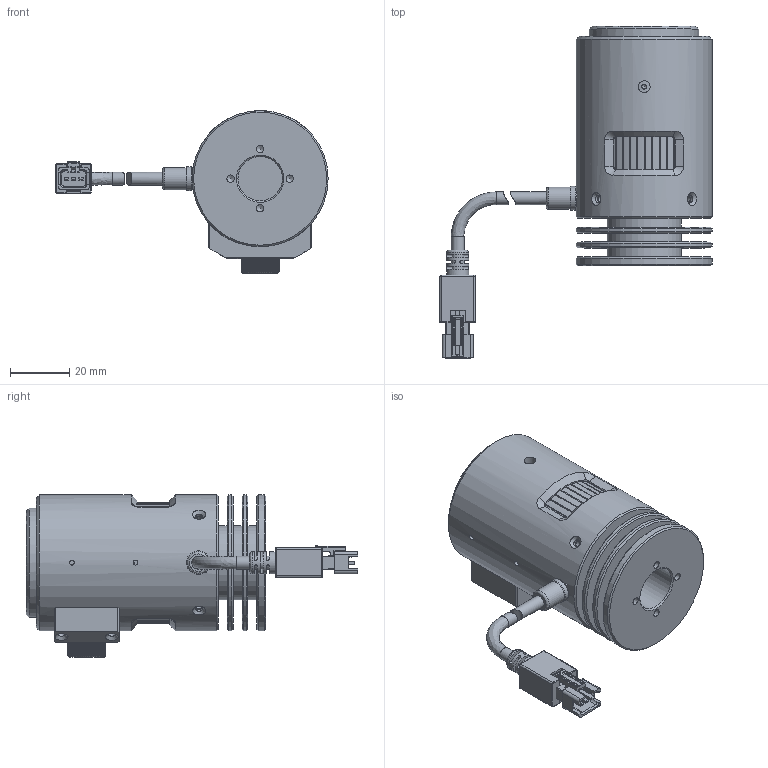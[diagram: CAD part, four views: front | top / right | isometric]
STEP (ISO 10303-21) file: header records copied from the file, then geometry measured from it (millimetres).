
FILE_DESCRIPTION (( 'STEP AP203' ), '1' );
FILE_NAME ('OPT-SLS03-X-V1.1尨砩芞.STEP', '2025-02-12T01:03:35', ( '' ), ( '' ), 'SwSTEP 2.0', 'SolidWorks 2016', '' );
FILE_SCHEMA (( 'CONFIG_CONTROL_DESIGN' ));
Products named in the file (1): OPT-SLS03-X-V1.1尨砩芞
Bounding box: 92.09 x 112.21 x 55 mm (x, y, z)
Surface area: 47343.8 mm2 (no closed solid volume)
Topology: 0 solids, 9 shells, 1176 faces, 3168 edges, 2078 vertices
Faces by surface type: plane 823, cylinder 269, cone 54, bspline 28, torus 2
Full cylindrical faces by diameter (mm): 1.6 x7, 2 x4, 2.4 x8, 2.5 x5, 3 x1, 3.5 x1, 3.6 x1, 4 x1, 4.3 x3, 6.5 x1, 7.5 x2, 8 x1, 13 x1, 14.8 x1, 15 x2, 16 x1, 21 x1, 21.317 x1, 25 x3, 29.4 x1, 32 x1, 37 x1, 37.2 x1, 37.4 x2, 39.2 x2, 40 x2, 40.761 x1, 41 x1, 42 x1, 42.1 x1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
Entity records: 39365 total; most frequent: CARTESIAN_POINT 10950, ORIENTED_EDGE 5929, DIRECTION 5428, EDGE_CURVE 3000, VECTOR 2160, LINE 2160, VERTEX_POINT 2029, AXIS2_PLACEMENT_3D 1634
